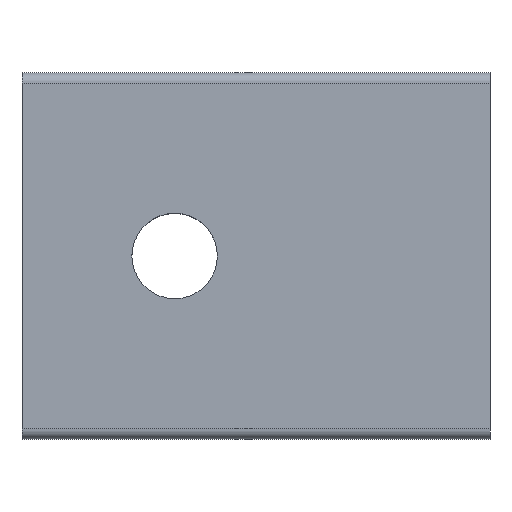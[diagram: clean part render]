
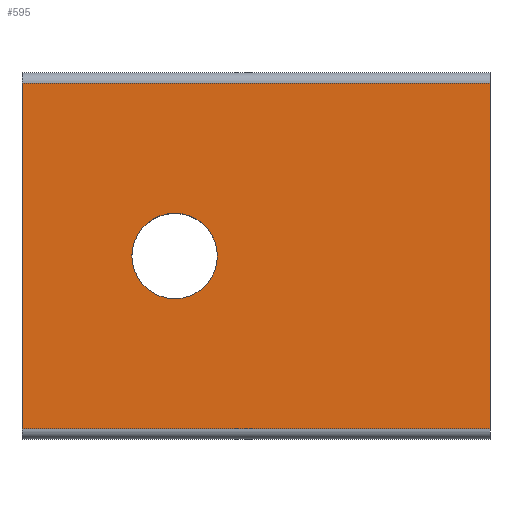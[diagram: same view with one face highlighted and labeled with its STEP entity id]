
A CAD part, top view. The second image highlights one B-rep face of the part: STEP entity #595.
In plain terms, the highlighted planar face has unit normal (0, 0, 1).
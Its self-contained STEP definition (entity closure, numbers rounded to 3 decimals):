
#17 = CARTESIAN_POINT ( 'NONE',  ( -7.5, -8.5, 0. ) ) ;
#31 = DIRECTION ( 'NONE',  ( 0., -1., 0. ) ) ;
#37 = EDGE_CURVE ( 'NONE', #214, #174, #131, .T. ) ;
#39 = DIRECTION ( 'NONE',  ( -1., 0., 0. ) ) ;
#47 = EDGE_CURVE ( 'NONE', #597, #458, #54, .T. ) ;
#48 = ORIENTED_EDGE ( 'NONE', *, *, #270, .T. ) ;
#50 = CARTESIAN_POINT ( 'NONE',  ( 15.5, -8.5, 0. ) ) ;
#54 = LINE ( 'NONE', #50, #454 ) ;
#55 = DIRECTION ( 'NONE',  ( 0., -1., 0. ) ) ;
#67 = AXIS2_PLACEMENT_3D ( 'NONE', #229, #480, #39 ) ;
#81 = ORIENTED_EDGE ( 'NONE', *, *, #317, .T. ) ;
#82 = CARTESIAN_POINT ( 'NONE',  ( 15.5, 8.5, 0. ) ) ;
#89 = CARTESIAN_POINT ( 'NONE',  ( -7.5, 8.5, 0. ) ) ;
#107 = CARTESIAN_POINT ( 'NONE',  ( 15.5, 8.5, 0. ) ) ;
#131 = CIRCLE ( 'NONE', #207, 2.1 ) ;
#174 = VERTEX_POINT ( 'NONE', #613 ) ;
#200 = EDGE_CURVE ( 'NONE', #298, #597, #222, .T. ) ;
#205 = AXIS2_PLACEMENT_3D ( 'NONE', #364, #568, #357 ) ;
#207 = AXIS2_PLACEMENT_3D ( 'NONE', #503, #303, #252 ) ;
#214 = VERTEX_POINT ( 'NONE', #411 ) ;
#222 = LINE ( 'NONE', #107, #538 ) ;
#229 = CARTESIAN_POINT ( 'NONE',  ( 15.5, 8.5, 0. ) ) ;
#239 = CARTESIAN_POINT ( 'NONE',  ( 15.5, -8.5, 0. ) ) ;
#244 = LINE ( 'NONE', #82, #304 ) ;
#252 = DIRECTION ( 'NONE',  ( -1., 0., 0. ) ) ;
#270 = EDGE_CURVE ( 'NONE', #298, #274, #244, .T. ) ;
#274 = VERTEX_POINT ( 'NONE', #89 ) ;
#278 = LINE ( 'NONE', #432, #517 ) ;
#279 = PLANE ( 'NONE',  #67 ) ;
#283 = FACE_BOUND ( 'NONE', #619, .T. ) ;
#298 = VERTEX_POINT ( 'NONE', #336 ) ;
#303 = DIRECTION ( 'NONE',  ( 0., 0., -1. ) ) ;
#304 = VECTOR ( 'NONE', #476, 1000. ) ;
#317 = EDGE_CURVE ( 'NONE', #274, #458, #278, .T. ) ;
#320 = ORIENTED_EDGE ( 'NONE', *, *, #47, .F. ) ;
#335 = ORIENTED_EDGE ( 'NONE', *, *, #200, .F. ) ;
#336 = CARTESIAN_POINT ( 'NONE',  ( 15.5, 8.5, 0. ) ) ;
#357 = DIRECTION ( 'NONE',  ( -1., 0., 0. ) ) ;
#364 = CARTESIAN_POINT ( 'NONE',  ( 0., 0., 0. ) ) ;
#372 = ORIENTED_EDGE ( 'NONE', *, *, #544, .T. ) ;
#373 = CIRCLE ( 'NONE', #205, 2.1 ) ;
#411 = CARTESIAN_POINT ( 'NONE',  ( -2.1, 0., 0. ) ) ;
#432 = CARTESIAN_POINT ( 'NONE',  ( -7.5, 8.5, 0. ) ) ;
#454 = VECTOR ( 'NONE', #552, 1000. ) ;
#458 = VERTEX_POINT ( 'NONE', #17 ) ;
#476 = DIRECTION ( 'NONE',  ( -1., 0., 0. ) ) ;
#478 = ORIENTED_EDGE ( 'NONE', *, *, #37, .T. ) ;
#480 = DIRECTION ( 'NONE',  ( 0., 0., -1. ) ) ;
#503 = CARTESIAN_POINT ( 'NONE',  ( 0., 0., 0. ) ) ;
#517 = VECTOR ( 'NONE', #31, 1000. ) ;
#538 = VECTOR ( 'NONE', #55, 1000. ) ;
#542 = FACE_OUTER_BOUND ( 'NONE', #615, .T. ) ;
#544 = EDGE_CURVE ( 'NONE', #174, #214, #373, .T. ) ;
#552 = DIRECTION ( 'NONE',  ( -1., 0., 0. ) ) ;
#568 = DIRECTION ( 'NONE',  ( 0., 0., -1. ) ) ;
#595 = ADVANCED_FACE ( 'NONE', ( #283, #542 ), #279, .F. ) ;
#597 = VERTEX_POINT ( 'NONE', #239 ) ;
#613 = CARTESIAN_POINT ( 'NONE',  ( 2.1, 0., 0. ) ) ;
#615 = EDGE_LOOP ( 'NONE', ( #81, #320, #335, #48 ) ) ;
#619 = EDGE_LOOP ( 'NONE', ( #478, #372 ) ) ;
